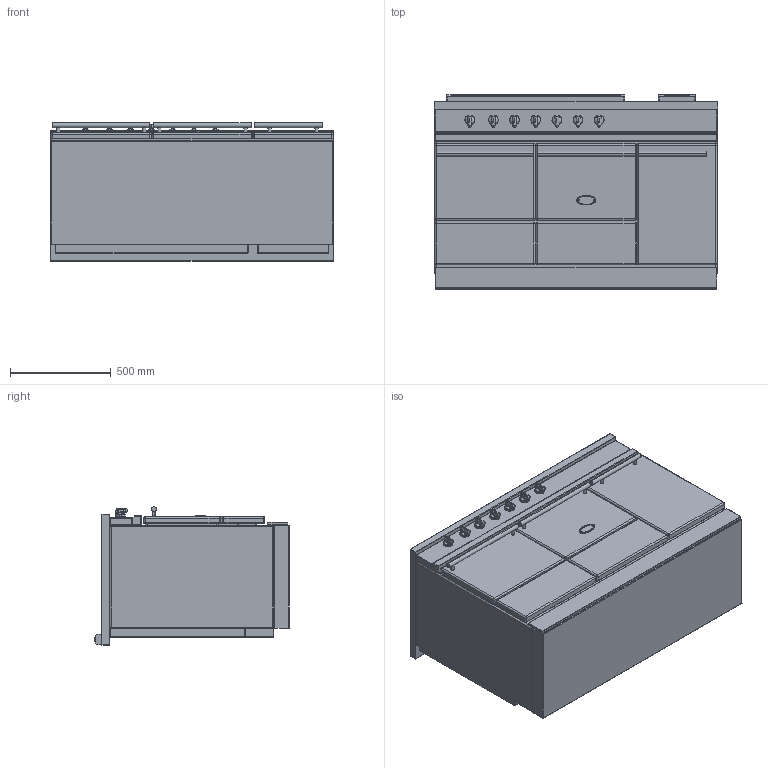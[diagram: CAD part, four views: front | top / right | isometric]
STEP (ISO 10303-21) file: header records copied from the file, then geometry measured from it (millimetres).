
FILE_DESCRIPTION((''),'2;1');
FILE_NAME('LMVI1452D_ASM','2022-04-13T11:36:07',('stagiaire'),(''),'CREO PARAMETRIC BY PTC INC, 2021424','CREO PARAMETRIC BY PTC INC, 2021424','');
FILE_SCHEMA(('AP203_CONFIGURATION_CONTROLLED_3D_DESIGN_OF_MECHANICAL_PARTS_AND_ASSEMBLIES_MIM_LF { 1 0 10303 403 2 1 2 }'));
Products named in the file (13): BASE_EXPORT_CLUNY_1400D_MODERN; 65064012; 19150009; 88064012_ASM; 65049009; 65650001; BASE_EXPORT_CLUNY_1400D_MODERN_ASM; TABLE_1405D_INDUCTION; 65052013; CHEMINEE_2020_LG182_EXPORT_STEP; CHEMINEE_2020_LG882_EXPORT_STEP; TABLE_1405D_INDUCTION_ASM; LMVI1452D_ASM
Assembly tree (18 placements, depth 4):
  LMVI1452D_ASM
    BASE_EXPORT_CLUNY_1400D_MODERN_ASM
      BASE_EXPORT_CLUNY_1400D_MODERN
      88064012_ASM  x7
        65064012
        19150009
      65049009
      65650001
    TABLE_1405D_INDUCTION_ASM
      TABLE_1405D_INDUCTION
      65052013
      CHEMINEE_2020_LG182_EXPORT_STEP
      CHEMINEE_2020_LG882_EXPORT_STEP
Bounding box: 1405 x 963 x 687.75 mm (x, y, z)
Volume: 515665670.6 mm3; surface area: 12892603.7 mm2
Topology: 25 solids, 25 shells, 3298 faces, 9533 edges, 6087 vertices
Faces by surface type: plane 1448, cylinder 1238, sphere 260, bspline 236, torus 80, cone 34, extrusion 2
Entity records: 102992 total; most frequent: CARTESIAN_POINT 25016, ORIENTED_EDGE 14268, DIRECTION 13774, EDGE_CURVE 7134, VECTOR 5436, LINE 5434, VERTEX_POINT 4613, AXIS2_PLACEMENT_3D 4151
